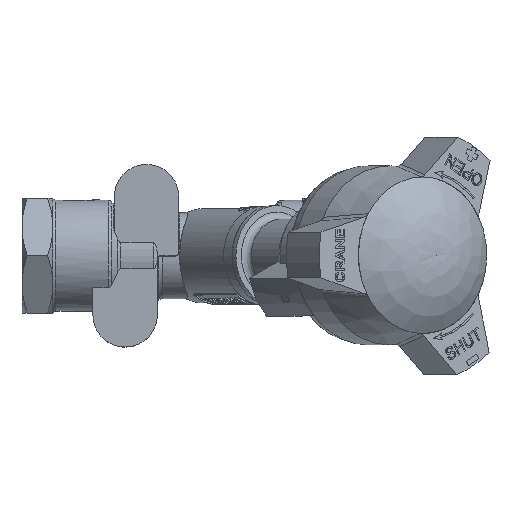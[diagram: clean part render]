
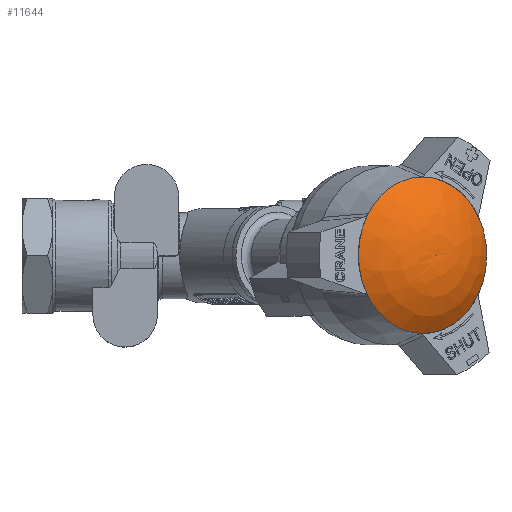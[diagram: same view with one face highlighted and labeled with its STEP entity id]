
A CAD part, top view. The second image highlights one B-rep face of the part: STEP entity #11644.
In plain terms, the highlighted free-form (B-spline) face has degree [2, 2] with [5, 9] control points.
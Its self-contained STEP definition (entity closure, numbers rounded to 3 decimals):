
#11555=CARTESIAN_POINT('',(16.012,21.882,85.8));
#11556=VERTEX_POINT('',#11555);
#11557=CARTESIAN_POINT('',(15.919,0.,85.865));
#11558=DIRECTION('',(0.574,0.,0.819));
#11559=DIRECTION('',(0.004,1.,-0.003));
#11560=AXIS2_PLACEMENT_3D('',#11557,#11558,#11559);
#11561=CIRCLE('',#11560,21.883);
#11562=EDGE_CURVE('',#11556,#11556,#11561,.T.);
#11588=CARTESIAN_POINT('',(30.801,-0.169,50.343));
#11589=CARTESIAN_POINT('',(37.077,-0.163,61.131));
#11590=CARTESIAN_POINT('',(33.876,-0.114,73.195));
#11591=CARTESIAN_POINT('',(30.675,-0.064,85.259));
#11592=CARTESIAN_POINT('',(19.877,0.,91.518));
#11593=CARTESIAN_POINT('',(30.662,-32.734,50.44));
#11594=CARTESIAN_POINT('',(36.943,-31.681,61.225));
#11595=CARTESIAN_POINT('',(33.783,-22.091,73.261));
#11596=CARTESIAN_POINT('',(30.623,-12.5,85.296));
#11597=CARTESIAN_POINT('',(19.877,0.,91.518));
#11598=CARTESIAN_POINT('',(3.987,-32.565,69.118));
#11599=CARTESIAN_POINT('',(11.125,-31.518,79.303));
#11600=CARTESIAN_POINT('',(15.781,-21.977,85.866));
#11601=CARTESIAN_POINT('',(20.436,-12.435,92.429));
#11602=CARTESIAN_POINT('',(19.877,0.,91.518));
#11603=CARTESIAN_POINT('',(-22.689,-32.396,87.797));
#11604=CARTESIAN_POINT('',(-14.693,-31.355,97.381));
#11605=CARTESIAN_POINT('',(-2.222,-21.863,98.471));
#11606=CARTESIAN_POINT('',(10.25,-12.371,99.561));
#11607=CARTESIAN_POINT('',(19.877,0.,91.518));
#11608=CARTESIAN_POINT('',(-22.551,0.169,87.7));
#11609=CARTESIAN_POINT('',(-14.559,0.163,97.287));
#11610=CARTESIAN_POINT('',(-2.128,0.114,98.406));
#11611=CARTESIAN_POINT('',(10.303,0.064,99.524));
#11612=CARTESIAN_POINT('',(19.877,0.,91.518));
#11613=CARTESIAN_POINT('',(-22.413,32.734,87.603));
#11614=CARTESIAN_POINT('',(-14.426,31.681,97.194));
#11615=CARTESIAN_POINT('',(-2.035,22.091,98.341));
#11616=CARTESIAN_POINT('',(10.355,12.5,99.487));
#11617=CARTESIAN_POINT('',(19.877,0.,91.518));
#11618=CARTESIAN_POINT('',(4.263,32.565,68.925));
#11619=CARTESIAN_POINT('',(11.392,31.518,79.116));
#11620=CARTESIAN_POINT('',(15.967,21.977,85.735));
#11621=CARTESIAN_POINT('',(20.542,12.435,92.355));
#11622=CARTESIAN_POINT('',(19.877,0.,91.518));
#11623=CARTESIAN_POINT('',(30.939,32.396,50.246));
#11624=CARTESIAN_POINT('',(37.21,31.355,61.038));
#11625=CARTESIAN_POINT('',(33.969,21.863,73.13));
#11626=CARTESIAN_POINT('',(30.728,12.371,85.222));
#11627=CARTESIAN_POINT('',(19.877,0.,91.518));
#11628=CARTESIAN_POINT('',(30.801,-0.169,50.343));
#11629=CARTESIAN_POINT('',(37.077,-0.163,61.131));
#11630=CARTESIAN_POINT('',(33.876,-0.114,73.195));
#11631=CARTESIAN_POINT('',(30.675,-0.064,85.259));
#11632=CARTESIAN_POINT('',(19.877,0.,91.518));
#11640=(BOUNDED_SURFACE()B_SPLINE_SURFACE(2,2,((#11588,#11593,#11598,#11603,#11608,#11613,#11618,#11623,#11628),(#11589,#11594,#11599,#11604,#11609,#11614,#11619,#11624,#11629),(#11590,#11595,#11600,#11605,#11610,#11615,#11620,#11625,#11630),(#11591,#11596,#11601,#11606,#11611,#11616,#11621,#11626,#11631),(#11592,#11597,#11602,#11607,#11612,#11617,#11622,#11627,#11632)),.UNSPECIFIED.,.F.,.T.,.U.)B_SPLINE_SURFACE_WITH_KNOTS((3,2,3),(3,2,2,2,3),(0.084,0.87,1.656),(0.0,1.571,3.142,4.712,6.283),.UNSPECIFIED.)GEOMETRIC_REPRESENTATION_ITEM()RATIONAL_B_SPLINE_SURFACE(((1.0,0.707,1.0,0.707,1.0,0.707,1.0,0.707,1.0),(0.924,0.653,0.924,0.653,0.924,0.653,0.924,0.653,0.924),(1.0,0.707,1.0,0.707,1.0,0.707,1.0,0.707,1.0),(0.924,0.653,0.924,0.653,0.924,0.653,0.924,0.653,0.924),(1.0,0.707,1.0,0.707,1.0,0.707,1.0,0.707,1.0)))REPRESENTATION_ITEM('')SURFACE());
#11641=ORIENTED_EDGE('',*,*,#11562,.T.);
#11642=EDGE_LOOP('',(#11641));
#11643=FACE_OUTER_BOUND('',#11642,.T.);
#11644=ADVANCED_FACE('',(#11643),#11640,.T.);
